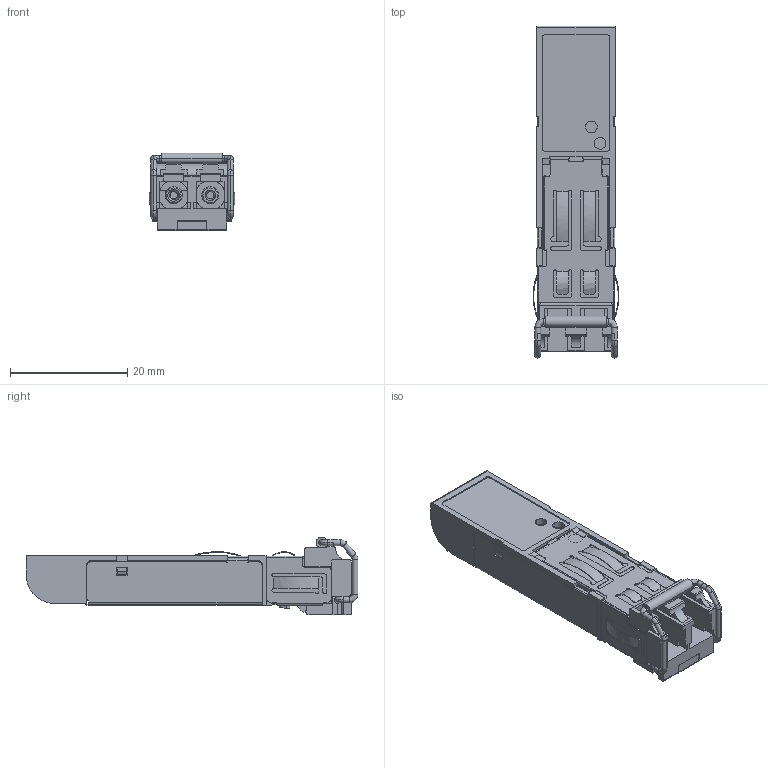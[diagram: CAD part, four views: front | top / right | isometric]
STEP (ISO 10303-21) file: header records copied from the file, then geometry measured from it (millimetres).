
FILE_DESCRIPTION((''),'2;1');
FILE_NAME('SFP-3D_ASM_ASM','2015-01-28T',('joe'),(''),'PRO/ENGINEER BY PARAMETRIC TECHNOLOGY CORPORATION, 2006100','PRO/ENGINEER BY PARAMETRIC TECHNOLOGY CORPORATION, 2006100','');
FILE_SCHEMA(('CONFIG_CONTROL_DESIGN'));
Length unit declared in the file: millimetre
Products named in the file (10): MANIFOLD_SOLID_BREP_19083; MANIFOLD_SOLID_BREP_19790; MANIFOLD_SOLID_BREP_20497; MANIFOLD_SOLID_BREP_20892; MANIFOLD_SOLID_BREP_21740; SFP-3D_97_ASM; SFP-8-940517_16; SFP-3D_ASM_1_ASM; 123; SFP-3D_ASM_ASM
Assembly tree (9 placements, depth 4):
  SFP-3D_ASM_ASM
    SFP-3D_ASM_1_ASM
      SFP-3D_97_ASM
        MANIFOLD_SOLID_BREP_19083
        MANIFOLD_SOLID_BREP_19790
        MANIFOLD_SOLID_BREP_20497
        MANIFOLD_SOLID_BREP_20892
        MANIFOLD_SOLID_BREP_21740
      SFP-8-940517_16
    123
Bounding box: 14.66 x 56.63 x 13.28 mm (x, y, z)
Volume: 2404.5 mm3; surface area: 7398.8 mm2
Topology: 7 solids, 7 shells, 865 faces, 2506 edges, 1647 vertices
Faces by surface type: plane 555, cylinder 260, torus 30, extrusion 12, cone 8
Entity records: 29105 total; most frequent: CARTESIAN_POINT 5477, ORIENTED_EDGE 5012, DIRECTION 4859, EDGE_CURVE 2506, VECTOR 1803, LINE 1791, VERTEX_POINT 1647, AXIS2_PLACEMENT_3D 1528
